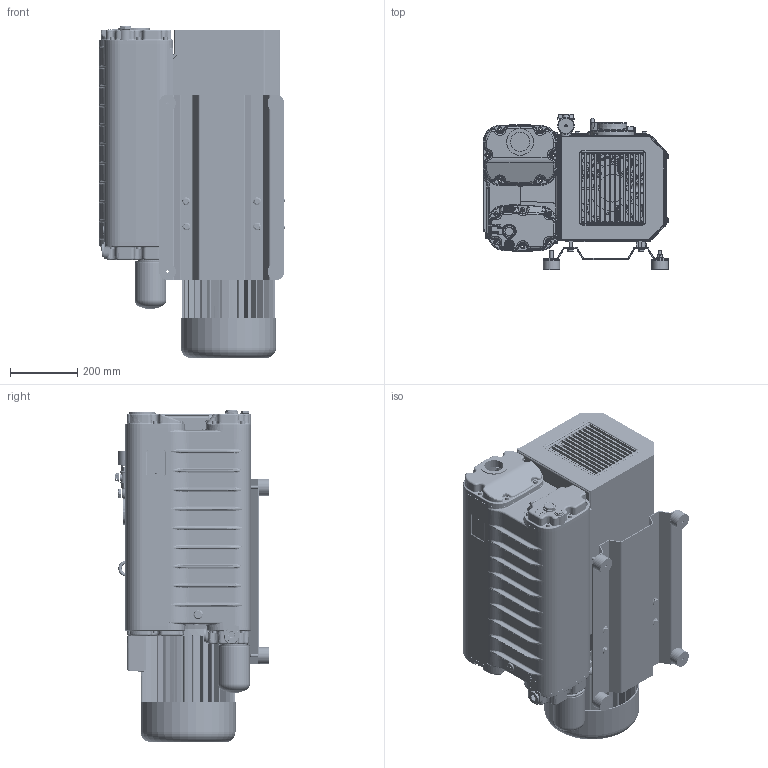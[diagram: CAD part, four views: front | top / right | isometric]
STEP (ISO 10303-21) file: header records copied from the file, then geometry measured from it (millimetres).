
FILE_DESCRIPTION (( 'STEP AP214' ), '1' );
FILE_NAME ('PH300CAG00_mot_SMEM_FE(2012).STEP', '2024-04-19T12:34:33', ( '' ), ( '' ), 'SwSTEP 2.0', 'SolidWorks 2023', '' );
FILE_SCHEMA (( 'AUTOMOTIVE_DESIGN' ));
Length unit declared in the file: millimetre
Products named in the file (1): PH300CAG00_mot_SMEM_FE(2012)
Bounding box: 551.72 x 460.12 x 985.64 mm (x, y, z)
Surface area: 4131355.2 mm2 (no closed solid volume)
Topology: 0 solids, 296 shells, 3970 faces, 14402 edges, 10265 vertices
Faces by surface type: plane 2294, cylinder 749, bspline 431, cone 250, torus 224, sphere 22
Full cylindrical faces by diameter (mm): 0.4 x68, 5 x1, 6 x1, 6.8 x4, 7 x1, 8 x1, 9 x1, 10 x5, 10.2 x4, 11 x1, 12 x1, 13 x28, 14 x4, 15 x1, 16 x2, 18 x5, 20 x4, 20.9 x1, 21 x1, 22.5 x1, 24 x4, 26 x2, 27 x3, 28 x3, 30 x2, 32 x2, 36 x2, 40 x8, 42 x1, 43.8 x4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
Entity records: 220677 total; most frequent: CARTESIAN_POINT 64187, DIRECTION 21612, ORIENTED_EDGE 20827, EDGE_CURVE 13961, VERTEX_POINT 10192, VECTOR 8468, LINE 8468, AXIS2_PLACEMENT_3D 6572
